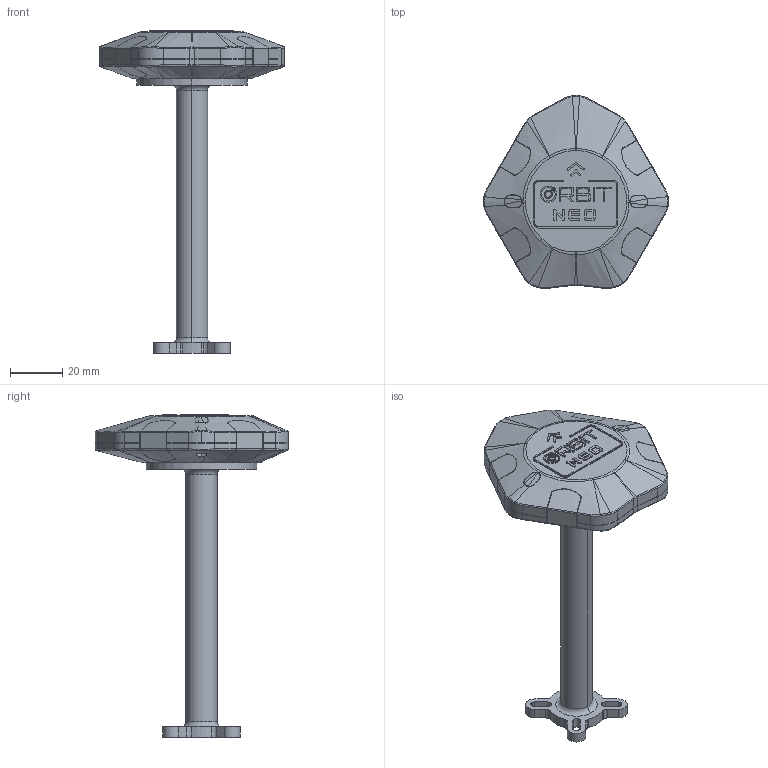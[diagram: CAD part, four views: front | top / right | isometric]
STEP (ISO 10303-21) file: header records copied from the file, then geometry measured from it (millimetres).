
FILE_DESCRIPTION (( 'STEP AP214' ), '1' );
FILE_NAME ('ORBIT-NEO-HEX-V3.STEP', '2025-05-19T13:05:57', ( '' ), ( '' ), 'SwSTEP 2.0', 'SolidWorks 2024', '' );
FILE_SCHEMA (( 'AUTOMOTIVE_DESIGN' ));
Length unit declared in the file: millimetre
Products named in the file (7): Post-ORBIT-NEO-HEX; Large LED Cover-ORBIT-NEO-HEX-V3; Small LED Cover-ORBIT-NEO-HEX-V3; Bottom_Enclosure-ORBIT-NEO-HEX-V3; ORBIT-NEO-HEX-V3; Top_Enclosure-ORBIT-NEO-HEX-V3; MirrorLarge LED Cover-ORBIT-NEO-HEX-V3
Assembly tree (9 placements, depth 2):
  ORBIT-NEO-HEX-V3
    Top_Enclosure-ORBIT-NEO-HEX-V3
    Bottom_Enclosure-ORBIT-NEO-HEX-V3
    Large LED Cover-ORBIT-NEO-HEX-V3  x2
    Small LED Cover-ORBIT-NEO-HEX-V3  x2
    Post-ORBIT-NEO-HEX
    MirrorLarge LED Cover-ORBIT-NEO-HEX-V3  x2
Bounding box: 71.14 x 74.25 x 123.9 mm (x, y, z)
Volume: 25675.1 mm3; surface area: 33826.6 mm2
Topology: 5 solids, 9 shells, 1697 faces, 4370 edges, 2706 vertices
Faces by surface type: cylinder 521, plane 513, bspline 506, torus 86, sphere 63, cone 8
Entity records: 56785 total; most frequent: CARTESIAN_POINT 24649, ORIENTED_EDGE 7488, DIRECTION 5571, EDGE_CURVE 3744, VERTEX_POINT 2332, AXIS2_PLACEMENT_3D 2088, EDGE_LOOP 1514, ADVANCED_FACE 1456
